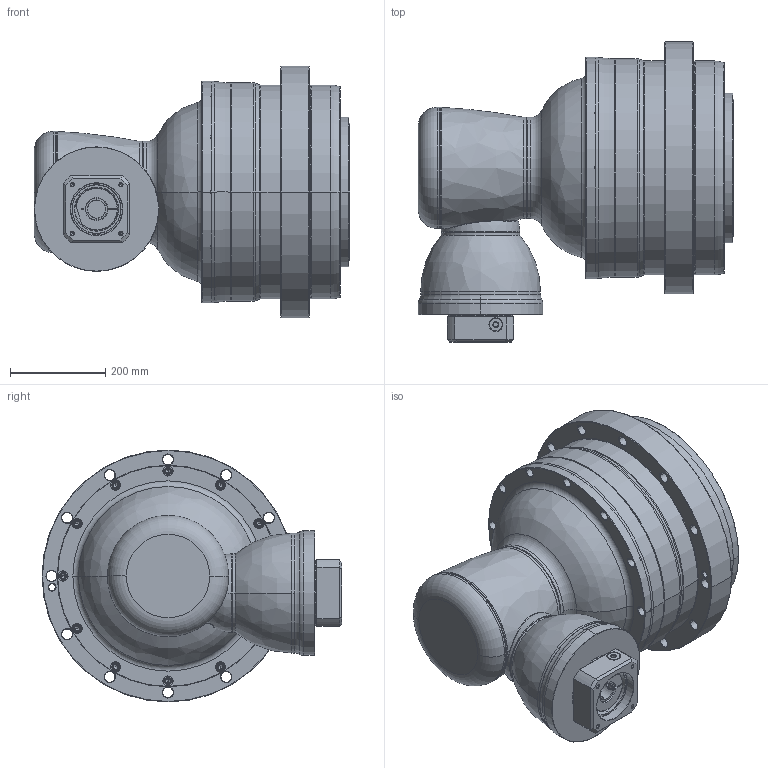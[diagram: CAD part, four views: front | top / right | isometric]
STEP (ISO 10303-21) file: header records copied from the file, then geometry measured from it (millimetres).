
FILE_DESCRIPTION((''),'2;1');
FILE_NAME('AHKA450_3ST_38-P0409900101_ASM','2016-12-07T',('d01943'),(''),'PRO/ENGINEER BY PARAMETRIC TECHNOLOGY CORPORATION, 2008410','PRO/ENGINEER BY PARAMETRIC TECHNOLOGY CORPORATION, 2008410','');
FILE_SCHEMA(('CONFIG_CONTROL_DESIGN'));
Length unit declared in the file: millimetre
Products named in the file (12): P1008700002; P1821200001; P0276200003; P0357200003; P1315700001; P1007700001; P1318700101; P0409900101; P0503900012; P0912701201; 21711422019; AHKA450_3ST_38-P0409900101_ASM
Assembly tree (11 placements, depth 2):
  AHKA450_3ST_38-P0409900101_ASM
    P1008700002
    P1821200001
    P0276200003
    P0357200003
    P1315700001
    P1007700001
    P1318700101
    P0409900101
    P0503900012
    P0912701201
    21711422019
Bounding box: 663.5 x 631 x 530 mm (x, y, z)
Volume: 73495892.3 mm3; surface area: 2607707.3 mm2
Topology: 12 solids, 12 shells, 920 faces, 2036 edges, 1172 vertices
Faces by surface type: cone 330, cylinder 317, torus 122, plane 119, bspline 30, sphere 2
Entity records: 32680 total; most frequent: CARTESIAN_POINT 11717, DIRECTION 4840, ORIENTED_EDGE 3960, AXIS2_PLACEMENT_3D 2063, EDGE_CURVE 1980, VERTEX_POINT 1172, CIRCLE 1150, EDGE_LOOP 1100
